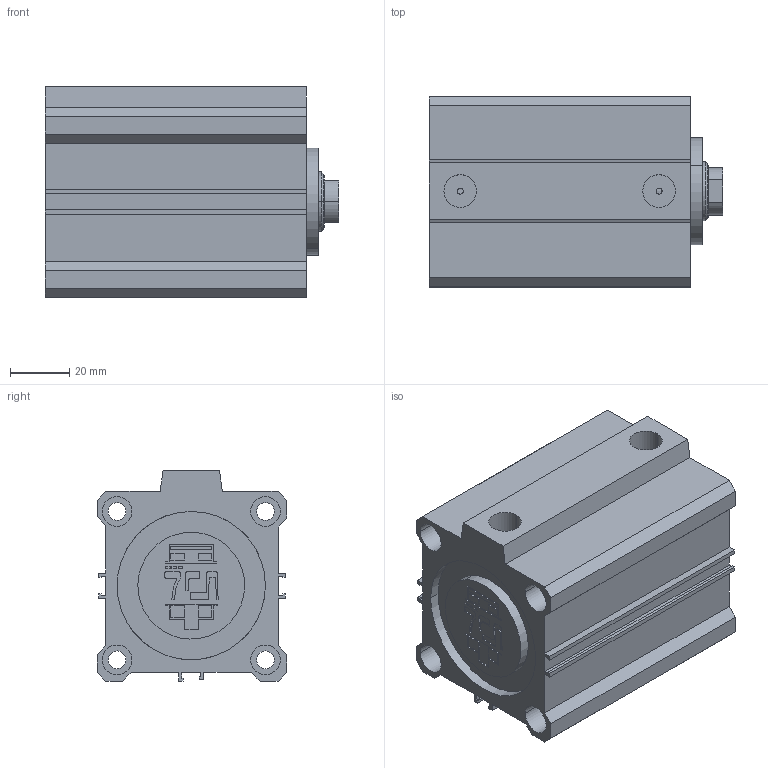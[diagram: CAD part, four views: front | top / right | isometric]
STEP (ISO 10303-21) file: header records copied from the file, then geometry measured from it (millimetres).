
FILE_DESCRIPTION(('CATIA V5 STEP Exchange'),'2;1');
FILE_NAME('D:\PDA\PDA-STP\PDA 50-20\PDA 50-20-50.stp','2016-02-02T10:49:25+00:00',('none'),('none'),'Version 5-6 Release 2012','CATIA V5 STEP AP203','none');
FILE_SCHEMA(('CONFIG_CONTROL_DESIGN'));
Length unit declared in the file: millimetre
Products named in the file (1): PDA 50-20-50-00
Assembly tree (2 placements, depth 2):
  PDA 50-20-50-00
    #58
    #6574
Bounding box: 99 x 64 x 71 mm (x, y, z)
Volume: 235889.7 mm3; surface area: 71568.2 mm2
Topology: 2 solids, 2 shells, 248 faces, 640 edges, 428 vertices
Faces by surface type: plane 172, cylinder 72, cone 2, torus 2
Entity records: 7094 total; most frequent: ORIENTED_EDGE 1280, CARTESIAN_POINT 1265, DIRECTION 966, EDGE_CURVE 640, VECTOR 482, LINE 482, VERTEX_POINT 428, AXIS2_PLACEMENT_3D 319
